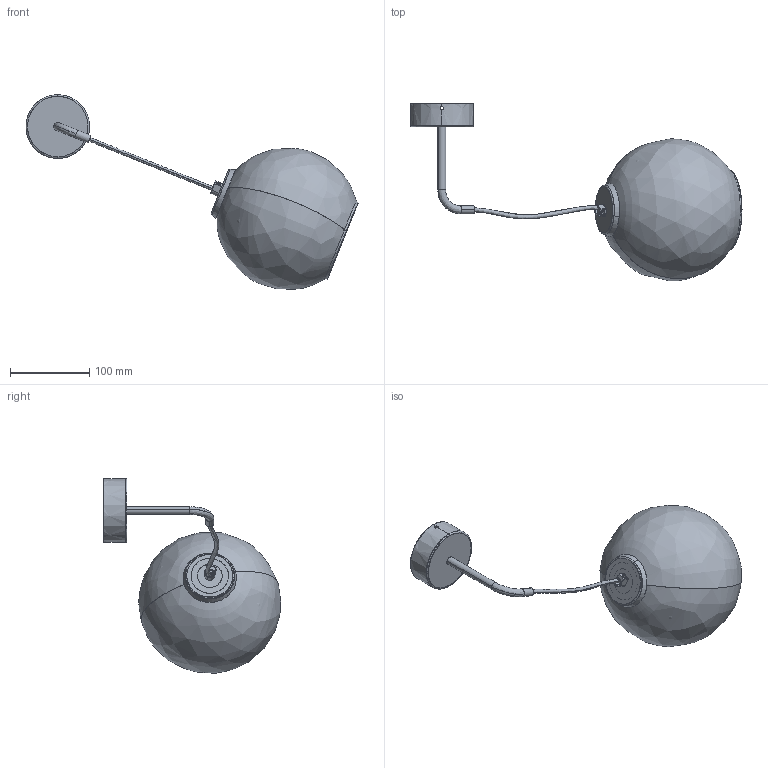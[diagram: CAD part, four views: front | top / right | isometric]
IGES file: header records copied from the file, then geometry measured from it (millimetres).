
Start section: SolidWorks IGES file using analytic representation for surfaces
Global section: file name: Z:\Modele 3D_WWW\_KOLEKCJE_WWW\VETRO\VETRO-I-9132\VETRO-I-9132.IGS; native system: SolidWorks 2020; preprocessor: SolidWorks 2020; author: gabriela.tworek; date: 210311.195055; units: millimetre
Bounding box: 417.71 x 223.59 x 244.6 mm (x, y, z)
Surface area: 284842.8 mm2 (no closed solid volume)
Topology: 0 solids, 0 shells, 328 faces, 4467 edges, 4443 vertices
Faces by surface type: revolution 205, bspline 123
